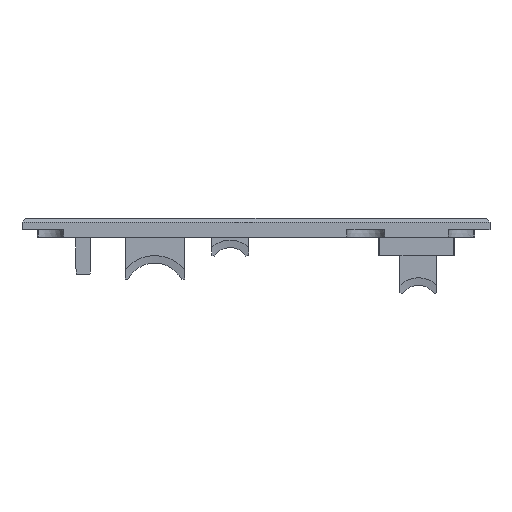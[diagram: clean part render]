
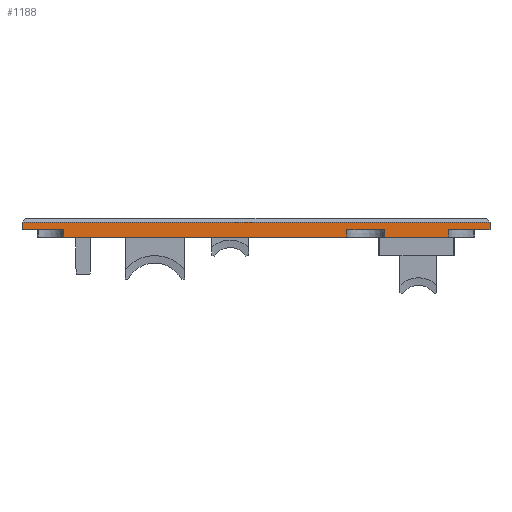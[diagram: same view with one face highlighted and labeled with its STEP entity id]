
A CAD part, front view. The second image highlights one B-rep face of the part: STEP entity #1188.
In plain terms, the highlighted planar face has unit normal (0, -1, 0).
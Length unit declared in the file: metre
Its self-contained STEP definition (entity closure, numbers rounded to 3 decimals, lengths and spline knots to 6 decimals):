
#1188 = ADVANCED_FACE( '', ( #2574 ), #2575, .T. );
#2574 = FACE_OUTER_BOUND( '', #4274, .T. );
#2575 = PLANE( '', #4275 );
#4274 = EDGE_LOOP( '', ( #8012, #8013, #8014, #8015, #8016, #8017, #8018, #8019, #8020, #8021, #8022, #8023 ) );
#4275 = AXIS2_PLACEMENT_3D( '', #8024, #8025, #8026 );
#8012 = ORIENTED_EDGE( '', *, *, #10992, .F. );
#8013 = ORIENTED_EDGE( '', *, *, #10889, .T. );
#8014 = ORIENTED_EDGE( '', *, *, #10993, .T. );
#8015 = ORIENTED_EDGE( '', *, *, #10931, .F. );
#8016 = ORIENTED_EDGE( '', *, *, #10794, .T. );
#8017 = ORIENTED_EDGE( '', *, *, #10109, .T. );
#8018 = ORIENTED_EDGE( '', *, *, #10994, .T. );
#8019 = ORIENTED_EDGE( '', *, *, #10929, .F. );
#8020 = ORIENTED_EDGE( '', *, *, #10995, .T. );
#8021 = ORIENTED_EDGE( '', *, *, #10683, .F. );
#8022 = ORIENTED_EDGE( '', *, *, #10493, .T. );
#8023 = ORIENTED_EDGE( '', *, *, #10424, .F. );
#8024 = CARTESIAN_POINT( '', ( 0.046381, -0.101208, 0.398 ) );
#8025 = DIRECTION( '', ( 0., -1., 0. ) );
#8026 = DIRECTION( '', ( 0., 0., -1. ) );
#10109 = EDGE_CURVE( '', #12513, #12514, #12515, .T. );
#10424 = EDGE_CURVE( '', #12985, #12987, #12988, .T. );
#10493 = EDGE_CURVE( '', #13086, #12987, #13087, .T. );
#10683 = EDGE_CURVE( '', #13086, #13347, #13348, .T. );
#10794 = EDGE_CURVE( '', #13492, #12513, #13493, .F. );
#10889 = EDGE_CURVE( '', #13289, #13608, #13610, .T. );
#10929 = EDGE_CURVE( '', #13658, #13660, #13661, .T. );
#10931 = EDGE_CURVE( '', #13492, #13663, #13664, .T. );
#10992 = EDGE_CURVE( '', #13289, #12985, #13739, .T. );
#10993 = EDGE_CURVE( '', #13608, #13663, #13740, .T. );
#10994 = EDGE_CURVE( '', #12514, #13660, #13741, .T. );
#10995 = EDGE_CURVE( '', #13658, #13347, #13742, .F. );
#12513 = VERTEX_POINT( '', #16326 );
#12514 = VERTEX_POINT( '', #16327 );
#12515 = LINE( '', #16328, #16329 );
#12985 = VERTEX_POINT( '', #17217 );
#12987 = VERTEX_POINT( '', #17220 );
#12988 = LINE( '', #17221, #17222 );
#13086 = VERTEX_POINT( '', #17444 );
#13087 = LINE( '', #17445, #17446 );
#13289 = VERTEX_POINT( '', #17798 );
#13347 = VERTEX_POINT( '', #17920 );
#13348 = LINE( '', #17921, #17922 );
#13492 = VERTEX_POINT( '', #18138 );
#13493 = LINE( '', #18139, #18140 );
#13608 = VERTEX_POINT( '', #18402 );
#13610 = LINE( '', #18405, #18406 );
#13658 = VERTEX_POINT( '', #18479 );
#13660 = VERTEX_POINT( '', #18482 );
#13661 = LINE( '', #18483, #18484 );
#13663 = VERTEX_POINT( '', #18487 );
#13664 = LINE( '', #18488, #18489 );
#13739 = LINE( '', #18597, #18598 );
#13740 = LINE( '', #18599, #18600 );
#13741 = LINE( '', #18601, #18602 );
#13742 = LINE( '', #18603, #18604 );
#16326 = CARTESIAN_POINT( '', ( -0.047264, -0.101208, 0.396 ) );
#16327 = CARTESIAN_POINT( '', ( 0.027881, -0.101208, 0.396 ) );
#16328 = CARTESIAN_POINT( '', ( -0.009744, -0.101208, 0.396 ) );
#16329 = VECTOR( '', #19731, 1. );
#17217 = CARTESIAN_POINT( '', ( 0.065881, -0.101208, 0.398 ) );
#17220 = CARTESIAN_POINT( '', ( 0.054881, -0.101208, 0.398 ) );
#17221 = CARTESIAN_POINT( '', ( -0.009744, -0.101208, 0.398 ) );
#17222 = VECTOR( '', #19988, 1. );
#17444 = CARTESIAN_POINT( '', ( 0.054776, -0.101208, 0.396 ) );
#17445 = CARTESIAN_POINT( '', ( 0.054858, -0.101208, 0.397556 ) );
#17446 = VECTOR( '', #20053, 1. );
#17798 = CARTESIAN_POINT( '', ( 0.065881, -0.101208, 0.4 ) );
#17920 = CARTESIAN_POINT( '', ( 0.037986, -0.101208, 0.396 ) );
#17921 = CARTESIAN_POINT( '', ( 0.046381, -0.101208, 0.396 ) );
#17922 = VECTOR( '', #20191, 1. );
#18138 = CARTESIAN_POINT( '', ( -0.047369, -0.101208, 0.398 ) );
#18139 = CARTESIAN_POINT( '', ( -0.047112, -0.101208, 0.3931 ) );
#18140 = VECTOR( '', #20267, 1. );
#18402 = CARTESIAN_POINT( '', ( -0.058369, -0.101208, 0.4 ) );
#18405 = CARTESIAN_POINT( '', ( 0.046381, -0.101208, 0.4 ) );
#18406 = VECTOR( '', #20336, 1. );
#18479 = CARTESIAN_POINT( '', ( 0.037881, -0.101208, 0.398 ) );
#18482 = CARTESIAN_POINT( '', ( 0.027881, -0.101208, 0.398 ) );
#18483 = CARTESIAN_POINT( '', ( -0.009744, -0.101208, 0.398 ) );
#18484 = VECTOR( '', #20366, 1. );
#18487 = CARTESIAN_POINT( '', ( -0.058369, -0.101208, 0.398 ) );
#18488 = CARTESIAN_POINT( '', ( -0.009744, -0.101208, 0.398 ) );
#18489 = VECTOR( '', #20368, 1. );
#18597 = CARTESIAN_POINT( '', ( 0.065881, -0.101208, 0.401 ) );
#18598 = VECTOR( '', #20420, 1. );
#18599 = CARTESIAN_POINT( '', ( -0.058369, -0.101208, 0.401 ) );
#18600 = VECTOR( '', #20421, 1. );
#18601 = CARTESIAN_POINT( '', ( 0.027881, -0.101208, 0.395998 ) );
#18602 = VECTOR( '', #20422, 1. );
#18603 = CARTESIAN_POINT( '', ( 0.037905, -0.101208, 0.397556 ) );
#18604 = VECTOR( '', #20423, 1. );
#19731 = DIRECTION( '', ( 1., 0., 0. ) );
#19988 = DIRECTION( '', ( -1., 0., 0. ) );
#20053 = DIRECTION( '', ( 0.052, 0., 0.999 ) );
#20191 = DIRECTION( '', ( -1., 0., 0. ) );
#20267 = DIRECTION( '', ( -0.052, 0., 0.999 ) );
#20336 = DIRECTION( '', ( -1., 0., 0. ) );
#20366 = DIRECTION( '', ( -1., 0., 0. ) );
#20368 = DIRECTION( '', ( -1., 0., 0. ) );
#20420 = DIRECTION( '', ( 0., 0., -1. ) );
#20421 = DIRECTION( '', ( 0., 0., -1. ) );
#20422 = DIRECTION( '', ( 0., 0., 1. ) );
#20423 = DIRECTION( '', ( -0.052, 0., 0.999 ) );
